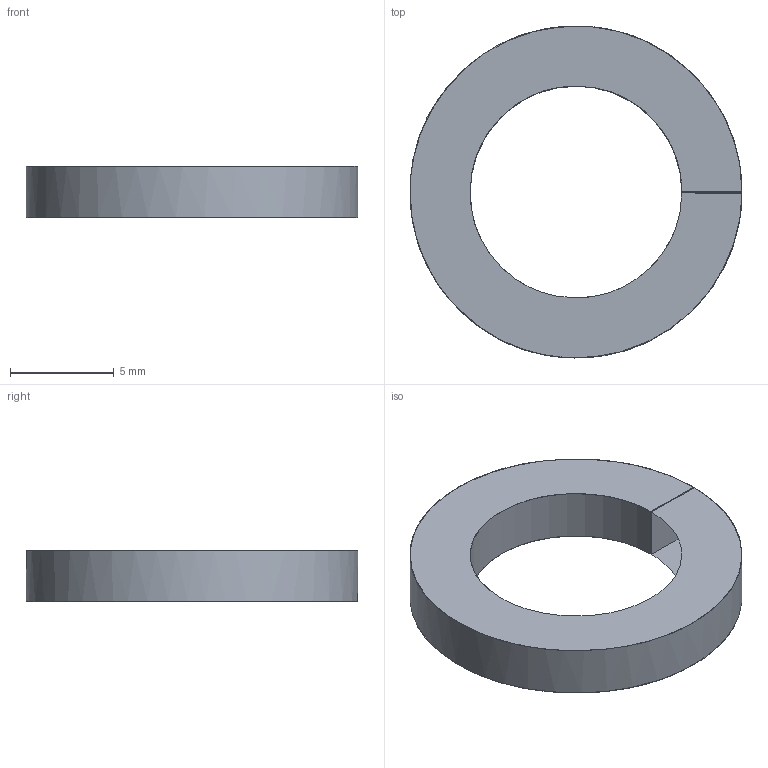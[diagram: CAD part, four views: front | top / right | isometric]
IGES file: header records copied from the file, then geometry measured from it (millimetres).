
Global section: file name: E:\UnigraphicsGraphicData\MISUMI_PRESS-PARTS\IGES\3d_cbw10_06367_r00.igs; native system: NX V5.0; preprocessor: UGS NX IGES V5.0; author: MISUMI; date: 20110105.160203; units: millimetre
Bounding box: 16 x 16 x 2.5 mm (x, y, z)
Surface area: 419.4 mm2 (no closed solid volume)
Topology: 0 solids, 0 shells, 6 faces, 52 edges, 52 vertices
Faces by surface type: bspline 6
